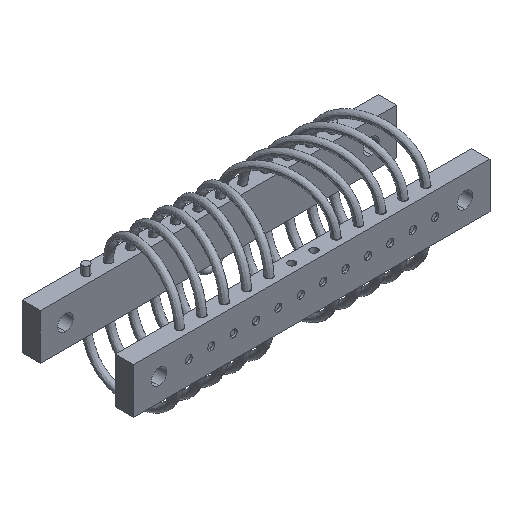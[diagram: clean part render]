
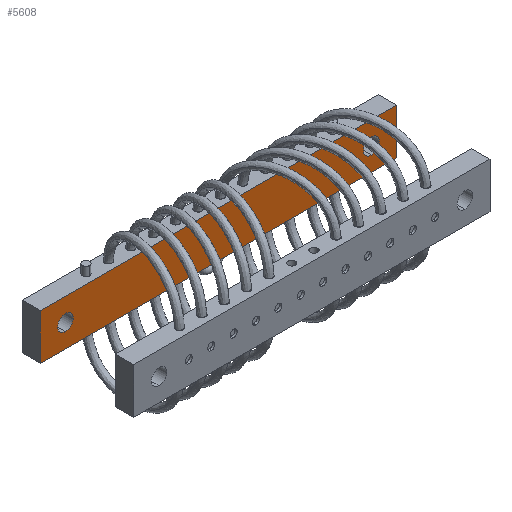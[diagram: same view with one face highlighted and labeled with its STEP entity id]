
A CAD part, isometric view. The second image highlights one B-rep face of the part: STEP entity #5608.
In plain terms, the highlighted planar face has unit normal (0, -1, 0).
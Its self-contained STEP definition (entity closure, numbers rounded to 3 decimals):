
#264 = EDGE_LOOP ( 'NONE', ( #9219, #12937, #10337, #4492 ) ) ;
#655 = DIRECTION ( 'NONE',  ( 0., 1., 0. ) ) ;
#675 = DIRECTION ( 'NONE',  ( 0., -1., 0. ) ) ;
#810 = CARTESIAN_POINT ( 'NONE',  ( 34.15, 8.4, 0. ) ) ;
#858 = CARTESIAN_POINT ( 'NONE',  ( 39.75, 8.4, 5.1 ) ) ;
#1630 = FACE_BOUND ( 'NONE', #3074, .T. ) ;
#1695 = LINE ( 'NONE', #12260, #16766 ) ;
#2116 = ORIENTED_EDGE ( 'NONE', *, *, #18539, .T. ) ;
#2270 = DIRECTION ( 'NONE',  ( 0., 0., 1. ) ) ;
#2439 = AXIS2_PLACEMENT_3D ( 'NONE', #16921, #8143, #18401 ) ;
#2671 = CARTESIAN_POINT ( 'NONE',  ( 34.15, 8.4, 1.75 ) ) ;
#2702 = CARTESIAN_POINT ( 'NONE',  ( 39.75, 8.4, -5.1 ) ) ;
#2850 = DIRECTION ( 'NONE',  ( 1., 0., 0. ) ) ;
#2936 = AXIS2_PLACEMENT_3D ( 'NONE', #9365, #655, #10830 ) ;
#3074 = EDGE_LOOP ( 'NONE', ( #8840, #18681 ) ) ;
#3100 = EDGE_CURVE ( 'NONE', #4744, #14567, #18870, .T. ) ;
#3607 = LINE ( 'NONE', #9787, #14786 ) ;
#3798 = EDGE_CURVE ( 'NONE', #18363, #6438, #1695, .T. ) ;
#3857 = DIRECTION ( 'NONE',  ( 0., 0., 1. ) ) ;
#4271 = AXIS2_PLACEMENT_3D ( 'NONE', #13718, #675, #10850 ) ;
#4492 = ORIENTED_EDGE ( 'NONE', *, *, #11870, .F. ) ;
#4744 = VERTEX_POINT ( 'NONE', #16669 ) ;
#4942 = VERTEX_POINT ( 'NONE', #9657 ) ;
#5262 = CARTESIAN_POINT ( 'NONE',  ( 34.15, 8.4, 0. ) ) ;
#5459 = CARTESIAN_POINT ( 'NONE',  ( -34.15, 8.4, 1.75 ) ) ;
#5608 = ADVANCED_FACE ( 'NONE', ( #1630, #8452, #12314 ), #6454, .T. ) ;
#5726 = CIRCLE ( 'NONE', #2936, 1.75 ) ;
#5943 = EDGE_CURVE ( 'NONE', #4942, #18375, #5726, .T. ) ;
#6050 = AXIS2_PLACEMENT_3D ( 'NONE', #810, #10982, #2270 ) ;
#6438 = VERTEX_POINT ( 'NONE', #7298 ) ;
#6443 = DIRECTION ( 'NONE',  ( -1., 0., 0. ) ) ;
#6454 = PLANE ( 'NONE',  #4271 ) ;
#6715 = DIRECTION ( 'NONE',  ( 0., 0., 1. ) ) ;
#7298 = CARTESIAN_POINT ( 'NONE',  ( -39.75, 8.4, -5.1 ) ) ;
#8143 = DIRECTION ( 'NONE',  ( 0., 1., 0. ) ) ;
#8317 = CARTESIAN_POINT ( 'NONE',  ( 39.75, 8.4, -5.1 ) ) ;
#8452 = FACE_BOUND ( 'NONE', #13938, .T. ) ;
#8840 = ORIENTED_EDGE ( 'NONE', *, *, #10085, .T. ) ;
#9219 = ORIENTED_EDGE ( 'NONE', *, *, #10349, .F. ) ;
#9365 = CARTESIAN_POINT ( 'NONE',  ( -34.15, 8.4, 0. ) ) ;
#9553 = CARTESIAN_POINT ( 'NONE',  ( -39.75, 8.4, 5.1 ) ) ;
#9657 = CARTESIAN_POINT ( 'NONE',  ( -34.15, 8.4, -1.75 ) ) ;
#9787 = CARTESIAN_POINT ( 'NONE',  ( -39.75, 8.4, -5.1 ) ) ;
#9928 = CIRCLE ( 'NONE', #2439, 1.75 ) ;
#10085 = EDGE_CURVE ( 'NONE', #14567, #4744, #12745, .T. ) ;
#10337 = ORIENTED_EDGE ( 'NONE', *, *, #12668, .F. ) ;
#10349 = EDGE_CURVE ( 'NONE', #6438, #17917, #3607, .T. ) ;
#10830 = DIRECTION ( 'NONE',  ( 0., 0., 1. ) ) ;
#10850 = DIRECTION ( 'NONE',  ( 0., 0., -1. ) ) ;
#10982 = DIRECTION ( 'NONE',  ( 0., 1., 0. ) ) ;
#11368 = VECTOR ( 'NONE', #2850, 1000. ) ;
#11430 = DIRECTION ( 'NONE',  ( 0., 0., -1. ) ) ;
#11578 = CARTESIAN_POINT ( 'NONE',  ( 39.75, 8.4, 5.1 ) ) ;
#11814 = LINE ( 'NONE', #2702, #15713 ) ;
#11870 = EDGE_CURVE ( 'NONE', #17917, #17759, #14789, .T. ) ;
#12260 = CARTESIAN_POINT ( 'NONE',  ( 39.75, 8.4, -5.1 ) ) ;
#12314 = FACE_OUTER_BOUND ( 'NONE', #264, .T. ) ;
#12668 = EDGE_CURVE ( 'NONE', #17759, #18363, #11814, .T. ) ;
#12745 = CIRCLE ( 'NONE', #6050, 1.75 ) ;
#12937 = ORIENTED_EDGE ( 'NONE', *, *, #3798, .F. ) ;
#13718 = CARTESIAN_POINT ( 'NONE',  ( 0., 8.4, 0. ) ) ;
#13938 = EDGE_LOOP ( 'NONE', ( #2116, #14080 ) ) ;
#14080 = ORIENTED_EDGE ( 'NONE', *, *, #5943, .T. ) ;
#14265 = AXIS2_PLACEMENT_3D ( 'NONE', #5262, #15469, #6715 ) ;
#14567 = VERTEX_POINT ( 'NONE', #2671 ) ;
#14786 = VECTOR ( 'NONE', #3857, 1000. ) ;
#14789 = LINE ( 'NONE', #11578, #11368 ) ;
#15469 = DIRECTION ( 'NONE',  ( 0., 1., 0. ) ) ;
#15713 = VECTOR ( 'NONE', #11430, 1000. ) ;
#16669 = CARTESIAN_POINT ( 'NONE',  ( 34.15, 8.4, -1.75 ) ) ;
#16766 = VECTOR ( 'NONE', #6443, 1000. ) ;
#16921 = CARTESIAN_POINT ( 'NONE',  ( -34.15, 8.4, 0. ) ) ;
#17759 = VERTEX_POINT ( 'NONE', #858 ) ;
#17917 = VERTEX_POINT ( 'NONE', #9553 ) ;
#18363 = VERTEX_POINT ( 'NONE', #8317 ) ;
#18375 = VERTEX_POINT ( 'NONE', #5459 ) ;
#18401 = DIRECTION ( 'NONE',  ( 0., 0., 1. ) ) ;
#18539 = EDGE_CURVE ( 'NONE', #18375, #4942, #9928, .T. ) ;
#18681 = ORIENTED_EDGE ( 'NONE', *, *, #3100, .T. ) ;
#18870 = CIRCLE ( 'NONE', #14265, 1.75 ) ;
